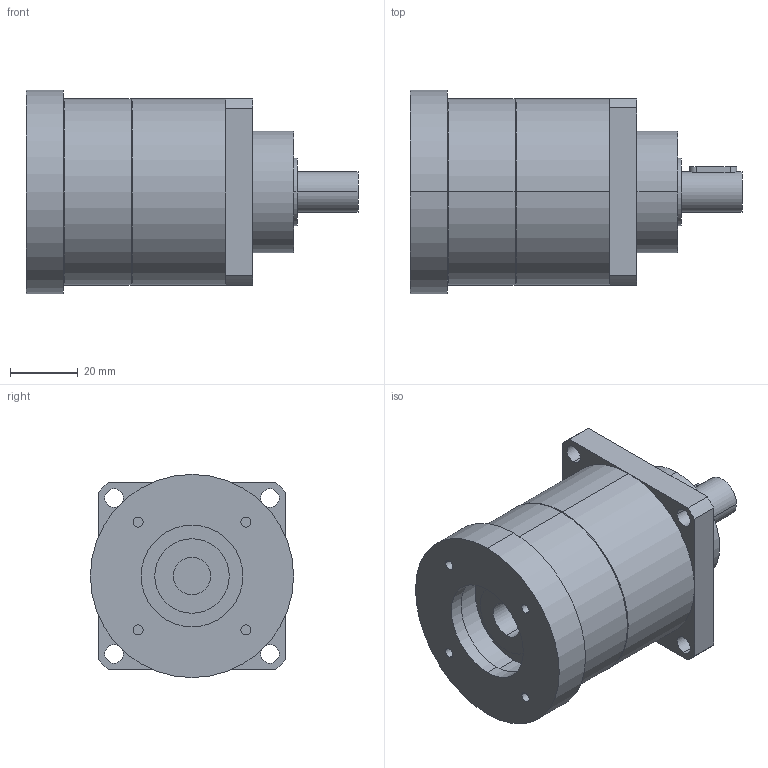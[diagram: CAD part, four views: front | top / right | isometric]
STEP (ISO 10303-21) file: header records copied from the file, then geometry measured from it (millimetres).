
FILE_DESCRIPTION(('CoCreate Modeling STEP Export'),'2;1');
FILE_NAME('GPT55_ig-3-4-5-7-10_12_B5A_11_P29.stp','2014-08-25T14:31:39',(''),(''),'CoCreate Modeling STEP processor for AP214 (Solid Model)','CoCreate Modeling 16.00C 25-Feb-2009 (C) Parametric Technology GmbH','');
FILE_SCHEMA(('AUTOMOTIVE_DESIGN { 1 0 10303 214 1 1 1 1 }'));
Length unit declared in the file: millimetre
Products named in the file (2): GPT55_ig-3-4-5-7-10_12_B5A_11_P29
Assembly tree (1 placements, depth 2):
  GPT55_ig-3-4-5-7-10_12_B5A_11_P29
    GPT55_ig-3-4-5-7-10_12_B5A_11_P29
Bounding box: 98 x 60 x 60 mm (x, y, z)
Volume: 173159 mm3; surface area: 24481.5 mm2
Topology: 1 solids, 1 shells, 75 faces, 187 edges, 128 vertices
Faces by surface type: cylinder 44, plane 27, cone 4
Entity records: 2307 total; most frequent: CARTESIAN_POINT 672, ORIENTED_EDGE 374, DIRECTION 278, EDGE_CURVE 187, VERTEX_POINT 128, AXIS2_PLACEMENT_3D 104, EDGE_LOOP 97, FACE_OUTER_BOUND 75
